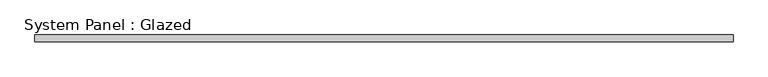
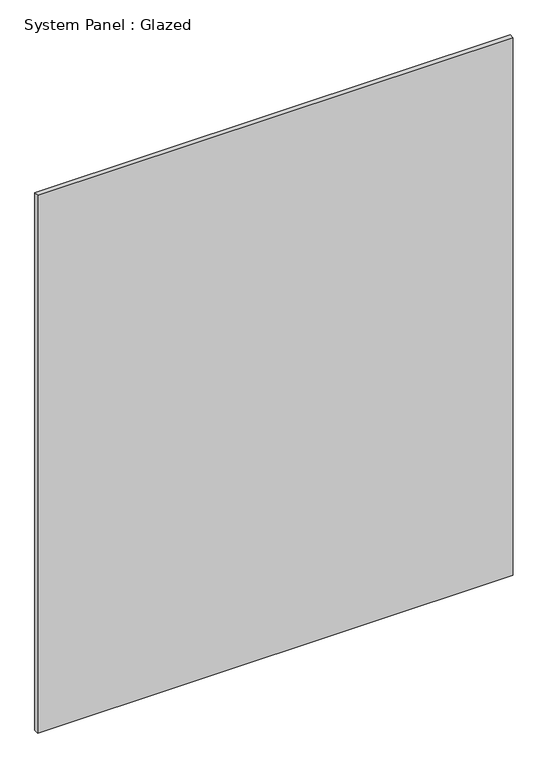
"""IFC4 building model written with IfcOpenShell, lengths in millimetres: plate geometry, System Panel : Glazed."""

from ifc_helpers import new_model, si_unit, origin, origin_with_axes, place, context, project, spatial, polyline, outline, extrude, source, transform, mapped, element, save


def system_panel_glazed_bf1ddb54(model_context):
    return source(origin(), model_context, "Body", "SweptSolid", [
        extrude(outline(polyline([(1307.5, -49.5), (-1307.5, -49.5), (-1307.5, -24.5), (1307.5, -24.5), (1307.5, -49.5)])), origin_with_axes(), (0.0, 0.0, 1.0), 3125.0),
    ])


if __name__ == "__main__":
    model = new_model("IFC4")
    model_context = context("Model", 3, world=origin())
    ifc_project = project(units=[si_unit("LENGTHUNIT", "METRE", prefix="MILLI")], contexts=[model_context])
    site = spatial("IfcSite", under=ifc_project)
    building = spatial("IfcBuilding", under=site)
    placement = place(None, origin())
    system_panel_glazed_shape = system_panel_glazed_bf1ddb54(model_context)
    element("IfcPlate", 1, ObjectType="System Panel : Glazed", at=placement, inside=building, context=model_context, shape_type="MappedRepresentation", body=[
        mapped(system_panel_glazed_shape, transform((0.0, 0.0, 0.0), x_axis=(1.0, 0.0, 0.0), y_axis=(0.0, 1.0, 0.0), z_axis=(0.0, 0.0, 1.0))),
    ])
    save(model, "model.ifc")
